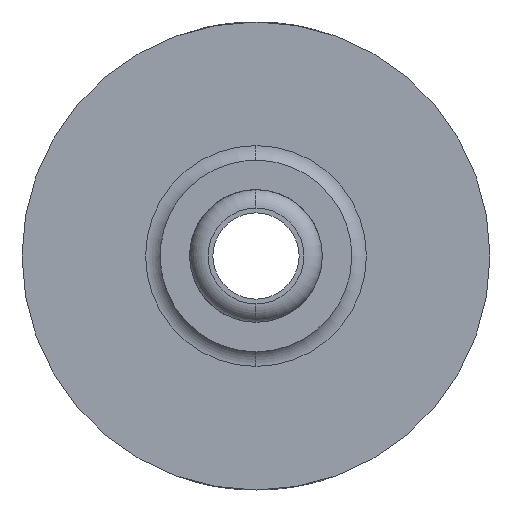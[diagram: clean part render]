
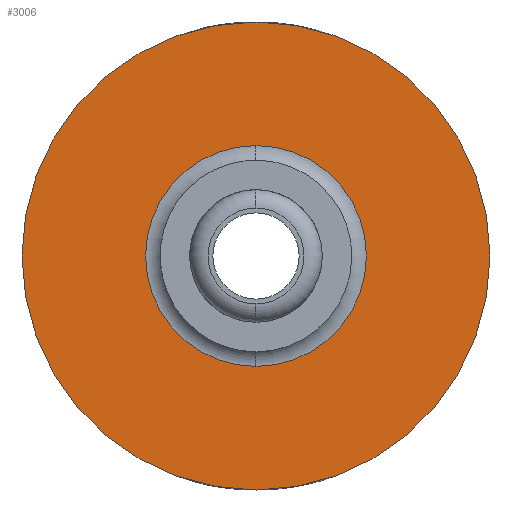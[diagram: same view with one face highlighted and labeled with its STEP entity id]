
A CAD part, left-side view. The second image highlights one B-rep face of the part: STEP entity #3006.
In plain terms, the highlighted planar face has unit normal (-1, 0, 0).
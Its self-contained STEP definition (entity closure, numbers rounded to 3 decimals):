
#65=FACE_BOUND('',#929,.T.);
#74=PLANE('',#3312);
#761=FACE_OUTER_BOUND('',#928,.T.);
#928=EDGE_LOOP('',(#2305,#2306));
#929=EDGE_LOOP('',(#2307,#2308));
#1077=CIRCLE('',#3168,1.498);
#1129=CIRCLE('',#3241,3.175);
#1164=CIRCLE('',#3277,3.175);
#1188=CIRCLE('',#3313,1.498);
#1222=VERTEX_POINT('',#4215);
#1223=VERTEX_POINT('',#4216);
#1332=VERTEX_POINT('',#4715);
#1333=VERTEX_POINT('',#4717);
#1542=EDGE_CURVE('',#1222,#1223,#1077,.T.);
#1657=EDGE_CURVE('',#1333,#1332,#1129,.T.);
#1729=EDGE_CURVE('',#1332,#1333,#1164,.T.);
#1793=EDGE_CURVE('',#1223,#1222,#1188,.T.);
#2305=ORIENTED_EDGE('',*,*,#1657,.T.);
#2306=ORIENTED_EDGE('',*,*,#1729,.T.);
#2307=ORIENTED_EDGE('',*,*,#1793,.T.);
#2308=ORIENTED_EDGE('',*,*,#1542,.T.);
#3006=ADVANCED_FACE('',(#761,#65),#74,.F.);
#3168=AXIS2_PLACEMENT_3D('',#4217,#3445,#3446);
#3241=AXIS2_PLACEMENT_3D('',#4718,#3627,#3628);
#3277=AXIS2_PLACEMENT_3D('',#4953,#3730,#3731);
#3312=AXIS2_PLACEMENT_3D('',#5502,#3813,#3814);
#3313=AXIS2_PLACEMENT_3D('',#5503,#3815,#3816);
#3445=DIRECTION('center_axis',(1.,0.,0.));
#3446=DIRECTION('ref_axis',(0.,0.,
1.));
#3627=DIRECTION('center_axis',(-1.,0.,0.));
#3628=DIRECTION('ref_axis',(0.,0.,1.));
#3730=DIRECTION('center_axis',(-1.,0.,0.));
#3731=DIRECTION('ref_axis',(0.,0.,
-1.));
#3813=DIRECTION('center_axis',(1.,0.,0.));
#3814=DIRECTION('ref_axis',(0.,0.,-1.));
#3815=DIRECTION('center_axis',(1.,0.,0.));
#3816=DIRECTION('ref_axis',(0.,0.,-1.));
#4215=CARTESIAN_POINT('',(-6.125,0.,1.498));
#4216=CARTESIAN_POINT('',(-6.125,0.,-1.498));
#4217=CARTESIAN_POINT('Origin',(-6.125,0.,0.));
#4715=CARTESIAN_POINT('',(-6.125,0.,-3.175));
#4717=CARTESIAN_POINT('',(-6.125,0.,3.175));
#4718=CARTESIAN_POINT('Origin',(-6.125,0.,0.));
#4953=CARTESIAN_POINT('Origin',(-6.125,0.,0.));
#5502=CARTESIAN_POINT('Origin',(-6.125,-3.213,0.));
#5503=CARTESIAN_POINT('Origin',(-6.125,0.,0.));
